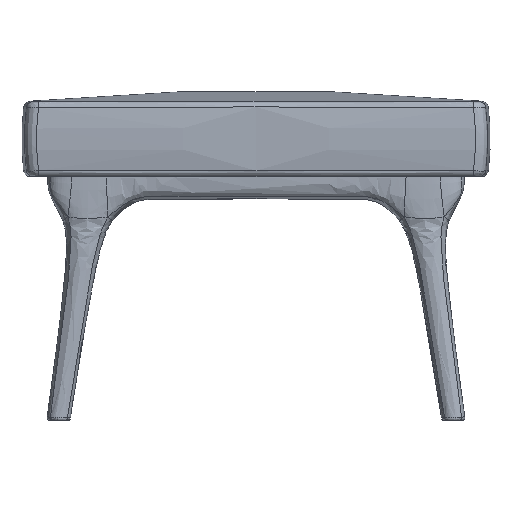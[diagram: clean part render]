
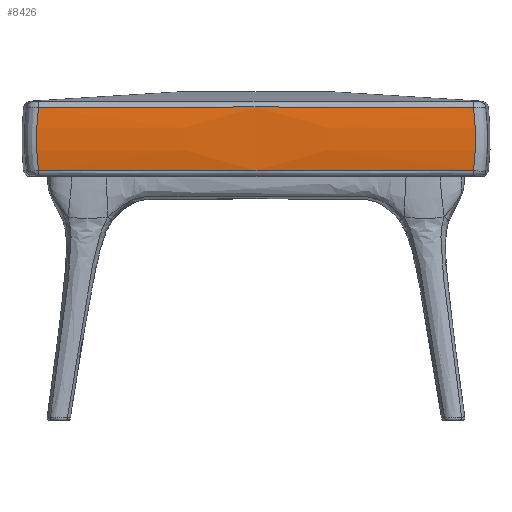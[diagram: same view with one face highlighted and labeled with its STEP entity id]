
A CAD part, left-side view. The second image highlights one B-rep face of the part: STEP entity #8426.
In plain terms, the highlighted free-form (B-spline) face has degree [3, 3] with [4, 4] control points.
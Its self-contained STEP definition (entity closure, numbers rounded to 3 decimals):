
#254 = CARTESIAN_POINT ( 'NONE',  ( -276.348, -1185.14, 327.122 ) ) ;
#274 = ORIENTED_EDGE ( 'NONE', *, *, #11495, .T. ) ;
#1017 = CARTESIAN_POINT ( 'NONE',  ( -276.348, -1185.14, 327.122 ) ) ;
#1182 = CARTESIAN_POINT ( 'NONE',  ( -276.348, -1185.14, 327.122 ) ) ;
#2065 = CARTESIAN_POINT ( 'NONE',  ( -279.609, -655.842, 276.645 ) ) ;
#3114 = CARTESIAN_POINT ( 'NONE',  ( -277.461, -1141.503, 327.35 ) ) ;
#3835 = CARTESIAN_POINT ( 'NONE',  ( -279.501, -835.966, 250.951 ) ) ;
#4154 = CARTESIAN_POINT ( 'NONE',  ( -284.322, -1012.399, 302.563 ) ) ;
#4191 = FACE_OUTER_BOUND ( 'NONE', #12301, .T. ) ;
#4452 = VERTEX_POINT ( 'NONE', #25522 ) ;
#4997 = CARTESIAN_POINT ( 'NONE',  ( -276.357, -1185.149, 250.951 ) ) ;
#5199 = CARTESIAN_POINT ( 'NONE',  ( -279.411, -1010.572, 327.72 ) ) ;
#5290 = EDGE_CURVE ( 'NONE', #23988, #7572, #13369, .T. ) ;
#5450 =( BOUNDED_SURFACE ( )  B_SPLINE_SURFACE ( 3, 3, ( 
 ( #22675, #20696, #10343, #24875 ),
 ( #12438, #26965, #14532, #2065 ),
 ( #16619, #4154, #18697, #6241 ),
 ( #20796, #8356, #22875, #10439 ) ),
 .UNSPECIFIED., .F., .F., .F. ) 
 B_SPLINE_SURFACE_WITH_KNOTS ( ( 4, 4 ),
 ( 4, 4 ),
 ( 0., 1. ),
 ( 0., 1. ),
 .UNSPECIFIED. ) 
 GEOMETRIC_REPRESENTATION_ITEM ( )  RATIONAL_B_SPLINE_SURFACE ( (
 ( 1., 1., 1., 1.),
 ( 0.994, 0.994, 0.994, 0.994),
 ( 0.994, 0.994, 0.994, 0.994),
 ( 1., 1., 1., 1.) ) ) 
 REPRESENTATION_ITEM ( '' )  SURFACE ( )  );
#5922 = CARTESIAN_POINT ( 'NONE',  ( -279.787, -966.917, 250.951 ) ) ;
#6241 = CARTESIAN_POINT ( 'NONE',  ( -279.555, -655.845, 302.563 ) ) ;
#6433 = CARTESIAN_POINT ( 'NONE',  ( -277.169, -1185.92, 257.241 ) ) ;
#6647 = B_SPLINE_CURVE_WITH_KNOTS ( 'NONE', 3,
 ( #6762, #22462, #16305, #3835, #18381, #5922, #20476, #8044, #22554, #10127 ),
 .UNSPECIFIED., .F., .F.,
 ( 4, 2, 2, 2, 4 ),
 ( 0., 0.131, 0.262, 0.393, 0.524 ),
 .UNSPECIFIED. ) ;
#6762 = CARTESIAN_POINT ( 'NONE',  ( -276.357, -661.386, 250.951 ) ) ;
#6884 = CARTESIAN_POINT ( 'NONE',  ( -278.297, -748.674, 327.51 ) ) ;
#7572 = VERTEX_POINT ( 'NONE', #15051 ) ;
#8044 = CARTESIAN_POINT ( 'NONE',  ( -278.358, -1097.867, 250.951 ) ) ;
#8133 = ORIENTED_EDGE ( 'NONE', *, *, #8647, .T. ) ;
#8218 = CARTESIAN_POINT ( 'NONE',  ( -276.348, -661.395, 327.122 ) ) ;
#8356 = CARTESIAN_POINT ( 'NONE',  ( -280.817, -1012.464, 328.242 ) ) ;
#8426 = ADVANCED_FACE ( 'NONE', ( #4191 ), #5450, .T. ) ;
#8544 = CARTESIAN_POINT ( 'NONE',  ( -277.78, -1186.5, 263.559 ) ) ;
#8647 = EDGE_CURVE ( 'NONE', #4452, #23988, #15201, .T. ) ;
#8755 = ORIENTED_EDGE ( 'NONE', *, *, #5290, .T. ) ;
#8993 = CARTESIAN_POINT ( 'NONE',  ( -276.348, -661.395, 327.122 ) ) ;
#10127 = CARTESIAN_POINT ( 'NONE',  ( -276.357, -1185.149, 250.951 ) ) ;
#10343 = CARTESIAN_POINT ( 'NONE',  ( -280.979, -834.212, 250.951 ) ) ;
#10439 = CARTESIAN_POINT ( 'NONE',  ( -276.055, -656.035, 328.242 ) ) ;
#10629 = CARTESIAN_POINT ( 'NONE',  ( -278.802, -1187.471, 282.632 ) ) ;
#11495 = EDGE_CURVE ( 'NONE', #7572, #15777, #26985, .T. ) ;
#12301 = EDGE_LOOP ( 'NONE', ( #274, #15249, #8133, #8755 ) ) ;
#12394 = CARTESIAN_POINT ( 'NONE',  ( -278.803, -659.063, 276.223 ) ) ;
#12438 = CARTESIAN_POINT ( 'NONE',  ( -279.61, -1190.644, 276.645 ) ) ;
#12725 = CARTESIAN_POINT ( 'NONE',  ( -277.974, -1186.685, 314.544 ) ) ;
#13330 = EDGE_CURVE ( 'NONE', #15777, #4452, #6647, .T. ) ;
#13369 = B_SPLINE_CURVE_WITH_KNOTS ( 'NONE', 3,
 ( #1017, #3114, #17656, #5199, #19745, #17350, #19342, #6884, #21423, #8993 ),
 .UNSPECIFIED., .F., .F.,
 ( 4, 2, 2, 2, 4 ),
 ( 0., 0.131, 0.262, 0.393, 0.524 ),
 .UNSPECIFIED. ) ;
#14489 = CARTESIAN_POINT ( 'NONE',  ( -276.357, -661.386, 250.951 ) ) ;
#14532 = CARTESIAN_POINT ( 'NONE',  ( -284.375, -834.088, 276.645 ) ) ;
#15051 = CARTESIAN_POINT ( 'NONE',  ( -276.348, -661.395, 327.122 ) ) ;
#15201 = B_SPLINE_CURVE_WITH_KNOTS ( 'NONE', 3,
 ( #4997, #6433, #8544, #23066, #10629, #25157, #12725, #254 ),
 .UNSPECIFIED., .F., .F.,
 ( 4, 2, 2, 4 ),
 ( 0.007, 0.026, 0.045, 0.084 ),
 .UNSPECIFIED. ) ;
#15249 = ORIENTED_EDGE ( 'NONE', *, *, #13330, .T. ) ;
#15777 = VERTEX_POINT ( 'NONE', #23765 ) ;
#16305 = CARTESIAN_POINT ( 'NONE',  ( -278.358, -748.671, 250.951 ) ) ;
#16619 = CARTESIAN_POINT ( 'NONE',  ( -279.557, -1190.645, 302.563 ) ) ;
#17350 = CARTESIAN_POINT ( 'NONE',  ( -279.69, -879.62, 327.771 ) ) ;
#17656 = CARTESIAN_POINT ( 'NONE',  ( -278.297, -1097.862, 327.51 ) ) ;
#18381 = CARTESIAN_POINT ( 'NONE',  ( -279.787, -879.615, 250.951 ) ) ;
#18697 = CARTESIAN_POINT ( 'NONE',  ( -284.322, -834.09, 302.563 ) ) ;
#19342 = CARTESIAN_POINT ( 'NONE',  ( -279.411, -835.97, 327.72 ) ) ;
#19745 = CARTESIAN_POINT ( 'NONE',  ( -279.69, -966.922, 327.771 ) ) ;
#20476 = CARTESIAN_POINT ( 'NONE',  ( -279.501, -1010.571, 250.951 ) ) ;
#20696 = CARTESIAN_POINT ( 'NONE',  ( -280.977, -1012.461, 250.951 ) ) ;
#20796 = CARTESIAN_POINT ( 'NONE',  ( -276.052, -1190.647, 328.242 ) ) ;
#21423 = CARTESIAN_POINT ( 'NONE',  ( -277.461, -705.032, 327.351 ) ) ;
#22462 = CARTESIAN_POINT ( 'NONE',  ( -277.501, -705.025, 250.951 ) ) ;
#22554 = CARTESIAN_POINT ( 'NONE',  ( -277.501, -1141.51, 250.951 ) ) ;
#22675 = CARTESIAN_POINT ( 'NONE',  ( -276.212, -1190.647, 250.951 ) ) ;
#22732 = CARTESIAN_POINT ( 'NONE',  ( -277.974, -659.85, 314.544 ) ) ;
#22875 = CARTESIAN_POINT ( 'NONE',  ( -280.818, -834.218, 328.242 ) ) ;
#23066 = CARTESIAN_POINT ( 'NONE',  ( -278.597, -1187.276, 276.254 ) ) ;
#23765 = CARTESIAN_POINT ( 'NONE',  ( -276.357, -661.386, 250.951 ) ) ;
#23988 = VERTEX_POINT ( 'NONE', #1182 ) ;
#24830 = CARTESIAN_POINT ( 'NONE',  ( -278.8, -659.066, 301.849 ) ) ;
#24875 = CARTESIAN_POINT ( 'NONE',  ( -276.216, -656.026, 250.951 ) ) ;
#25157 = CARTESIAN_POINT ( 'NONE',  ( -278.8, -1187.469, 301.851 ) ) ;
#25522 = CARTESIAN_POINT ( 'NONE',  ( -276.357, -1185.149, 250.951 ) ) ;
#26918 = CARTESIAN_POINT ( 'NONE',  ( -277.981, -659.844, 263.53 ) ) ;
#26965 = CARTESIAN_POINT ( 'NONE',  ( -284.376, -1012.398, 276.645 ) ) ;
#26985 = B_SPLINE_CURVE_WITH_KNOTS ( 'NONE', 3,
 ( #8218, #22732, #24830, #12394, #26918, #14489 ),
 .UNSPECIFIED., .F., .F.,
 ( 4, 2, 4 ),
 ( 0.007, 0.045, 0.083 ),
 .UNSPECIFIED. ) ;
